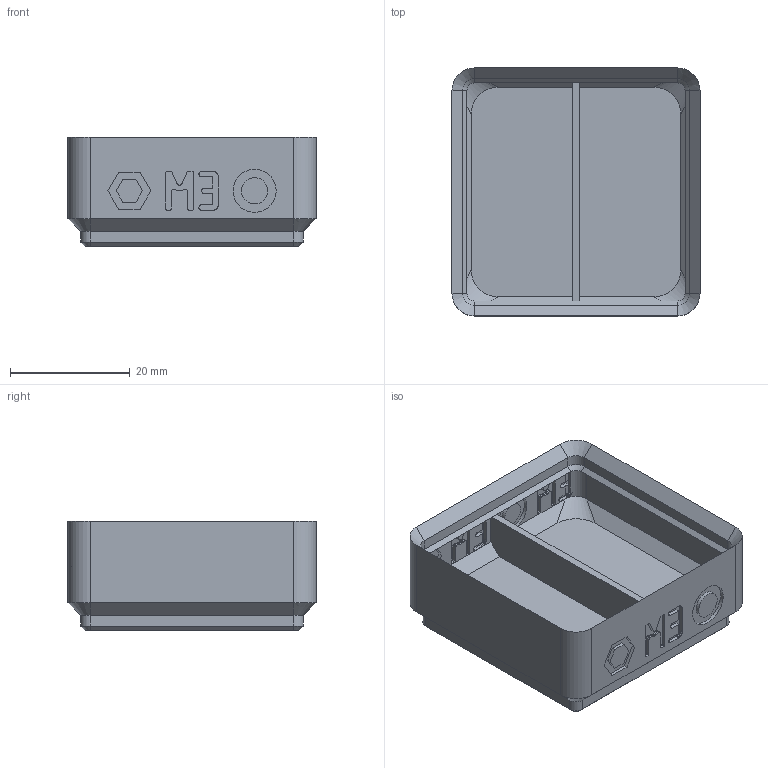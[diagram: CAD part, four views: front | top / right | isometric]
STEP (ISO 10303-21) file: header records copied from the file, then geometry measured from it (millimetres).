
FILE_DESCRIPTION(('Open CASCADE Model'),'2;1');
FILE_NAME('bin_nut_wshr_m3','2026-11-16T17:22:06',('Author'),( 'Open CASCADE'),'Open CASCADE STEP processor 8.0','build123d', 'Unknown');
FILE_SCHEMA(('AUTOMOTIVE_DESIGN { 1 0 10303 214 1 1 1 1 }'));
Products named in the file (1): bin_nut_wshr_m3
Bounding box: 41.5 x 41.5 x 18.4 mm (x, y, z)
Volume: 11265.6 mm3; surface area: 8952.6 mm2
Topology: 1 solids, 1 shells, 831 faces, 2371 edges, 1562 vertices
Faces by surface type: plane 774, cylinder 31, cone 16, bspline 10
Full cylindrical faces by diameter (mm): 3.2 x4, 3.846 x1, 4.4 x1, 6.5 x4, 6.646 x1, 7.2 x1
Entity records: 56066 total; most frequent: CARTESIAN_POINT 11421, DIRECTION 7278, LINE 5384, VECTOR 5384, ORIENTED_EDGE 4742, PCURVE 4742, DEFINITIONAL_REPRESENTATION 4742, EDGE_CURVE 2371
